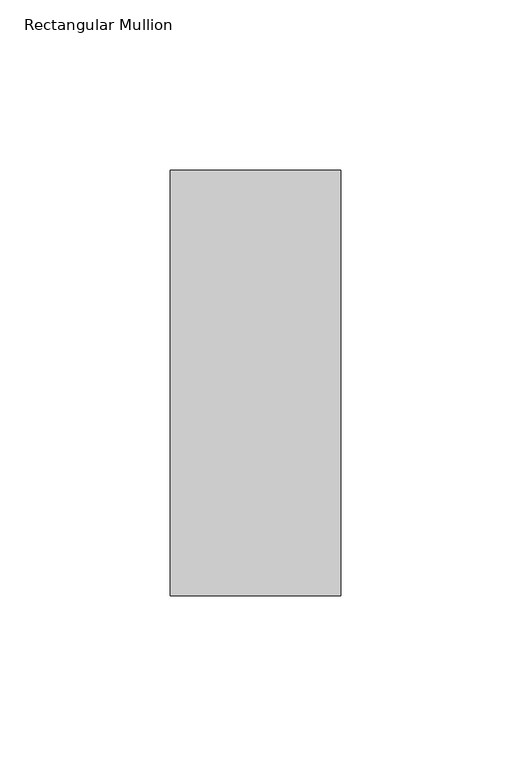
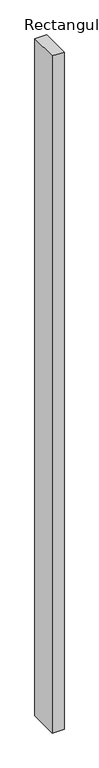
"""IFC4 building model written with IfcOpenShell, lengths in millimetres: member geometry, Rectangular Mullion : RSen_21_CWM_support profile - 50x125 - right_gen_duco projects."""

from ifc_helpers import new_model, si_unit, frame, origin, place, context, project, spatial, polyline, outline, extrude, source, transform, mapped, element, save


def rectangular_mullion_5af3f62c(model_context):
    return source(origin(), model_context, "Body", "SweptSolid", [
        extrude(outline(polyline([(-100.0, 1.0), (-50.0, 1.0), (-50.0, -124.0), (-100.0, -124.0), (-100.0, 1.0)])), frame((0.0, 0.0, -3000.0), z_axis=(0.0, 0.0, 1.0), x_axis=(1.0, 0.0, 0.0)), (0.0, 0.0, 1.0), 3000.0),
    ])


if __name__ == "__main__":
    model = new_model("IFC4")
    model_context = context("Model", 3, world=origin())
    ifc_project = project(units=[si_unit("LENGTHUNIT", "METRE", prefix="MILLI")], contexts=[model_context])
    site = spatial("IfcSite", under=ifc_project)
    building = spatial("IfcBuilding", under=site)
    placement = place(None, origin())
    rectangular_mullion_shape = rectangular_mullion_5af3f62c(model_context)
    element("IfcMember", 1, ObjectType="Rectangular Mullion : RSen_21_CWM_support profile - 50x125 - right_gen_duco projects", at=placement, inside=building, context=model_context, shape_type="MappedRepresentation", body=[
        mapped(rectangular_mullion_shape, transform((0.0, 0.0, 0.0), x_axis=(1.0, 0.0, 0.0), y_axis=(0.0, 1.0, 0.0), z_axis=(0.0, 0.0, 1.0))),
    ])
    save(model, "model.ifc")
